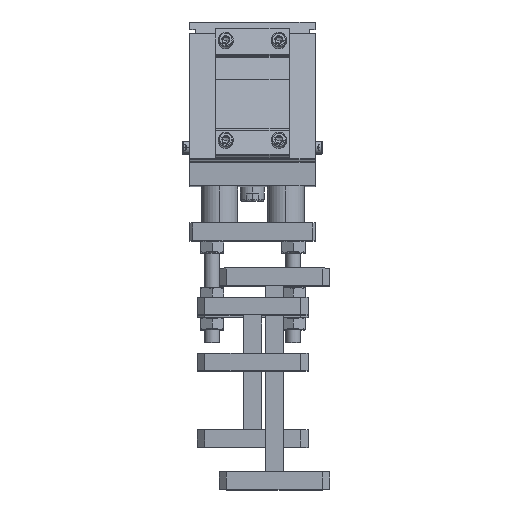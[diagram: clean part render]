
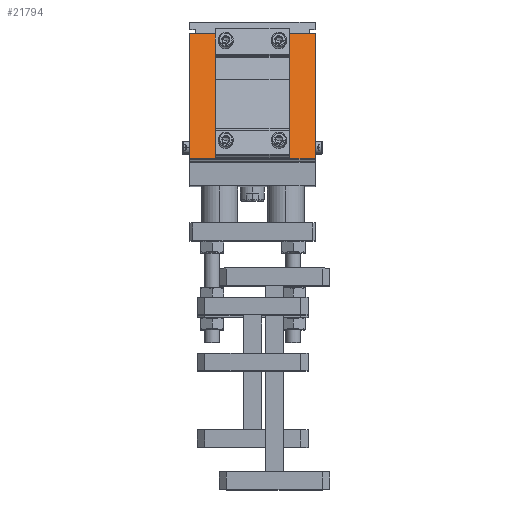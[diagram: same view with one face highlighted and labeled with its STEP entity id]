
A CAD part, top view. The second image highlights one B-rep face of the part: STEP entity #21794.
In plain terms, the highlighted planar face has unit normal (0, 0.244, 0.97).
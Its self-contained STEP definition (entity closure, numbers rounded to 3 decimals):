
#15 = VECTOR ( 'NONE', #11052, 1000. ) ;
#102 = LINE ( 'NONE', #12894, #5116 ) ;
#410 = CARTESIAN_POINT ( 'NONE',  ( 71.137, 165.21, 475.752 ) ) ;
#917 = CARTESIAN_POINT ( 'NONE',  ( 53.637, 165.736, 475.62 ) ) ;
#918 = CARTESIAN_POINT ( 'NONE',  ( 3.637, 165.21, 475.752 ) ) ;
#1433 = VECTOR ( 'NONE', #9855, 1000. ) ;
#2086 = PLANE ( 'NONE',  #15679 ) ;
#2165 = EDGE_CURVE ( 'NONE', #12324, #15682, #2556, .T. ) ;
#2556 = LINE ( 'NONE', #410, #18318 ) ;
#2584 = VECTOR ( 'NONE', #7130, 1000. ) ;
#2753 = VERTEX_POINT ( 'NONE', #28392 ) ;
#2785 = EDGE_LOOP ( 'NONE', ( #4768, #18932, #10596, #16366 ) ) ;
#3069 = EDGE_CURVE ( 'NONE', #19604, #8289, #10207, .T. ) ;
#3143 = EDGE_CURVE ( 'NONE', #15309, #19604, #8309, .T. ) ;
#3329 = EDGE_CURVE ( 'NONE', #15682, #15290, #22570, .T. ) ;
#3807 = EDGE_CURVE ( 'NONE', #18397, #10415, #23106, .T. ) ;
#3882 = ORIENTED_EDGE ( 'NONE', *, *, #14104, .T. ) ;
#4142 = VECTOR ( 'NONE', #14230, 1000. ) ;
#4285 = CARTESIAN_POINT ( 'NONE',  ( 331.147, 165.736, 475.62 ) ) ;
#4397 = DIRECTION ( 'NONE',  ( 0., -0.97, 0.244 ) ) ;
#4768 = ORIENTED_EDGE ( 'NONE', *, *, #3143, .T. ) ;
#5116 = VECTOR ( 'NONE', #4397, 1000. ) ;
#5192 = VERTEX_POINT ( 'NONE', #7383 ) ;
#5451 = CARTESIAN_POINT ( 'NONE',  ( 3.637, 165.21, 475.752 ) ) ;
#5759 = DIRECTION ( 'NONE',  ( 0., -0.97, 0.244 ) ) ;
#5808 = CARTESIAN_POINT ( 'NONE',  ( 53.637, 233.632, 458.552 ) ) ;
#5843 = EDGE_CURVE ( 'NONE', #12324, #25082, #26510, .T. ) ;
#7130 = DIRECTION ( 'NONE',  ( 0., 0.97, -0.244 ) ) ;
#7205 = ORIENTED_EDGE ( 'NONE', *, *, #9595, .F. ) ;
#7267 = VECTOR ( 'NONE', #26683, 1000. ) ;
#7383 = CARTESIAN_POINT ( 'NONE',  ( 53.637, 218.471, 462.363 ) ) ;
#7518 = EDGE_LOOP ( 'NONE', ( #24419, #24715, #3882, #15535, #8449, #7205, #7843, #22394 ) ) ;
#7843 = ORIENTED_EDGE ( 'NONE', *, *, #5843, .F. ) ;
#8289 = VERTEX_POINT ( 'NONE', #16855 ) ;
#8309 = LINE ( 'NONE', #4285, #13799 ) ;
#8317 = EDGE_CURVE ( 'NONE', #2753, #18397, #21052, .T. ) ;
#8449 = ORIENTED_EDGE ( 'NONE', *, *, #3807, .T. ) ;
#9595 = EDGE_CURVE ( 'NONE', #25082, #10415, #18089, .T. ) ;
#9855 = DIRECTION ( 'NONE',  ( -1., 0., 0. ) ) ;
#10207 = LINE ( 'NONE', #5451, #4142 ) ;
#10415 = VERTEX_POINT ( 'NONE', #23305 ) ;
#10596 = ORIENTED_EDGE ( 'NONE', *, *, #23648, .F. ) ;
#10820 = CARTESIAN_POINT ( 'NONE',  ( -13.863, 165.21, 475.752 ) ) ;
#10946 = CARTESIAN_POINT ( 'NONE',  ( 331.147, 165.21, 475.752 ) ) ;
#11052 = DIRECTION ( 'NONE',  ( -1., 0., 0. ) ) ;
#11660 = EDGE_CURVE ( 'NONE', #15290, #21692, #18448, .T. ) ;
#12324 = VERTEX_POINT ( 'NONE', #22960 ) ;
#12859 = CARTESIAN_POINT ( 'NONE',  ( 331.147, 165.21, 475.752 ) ) ;
#12894 = CARTESIAN_POINT ( 'NONE',  ( 53.637, 165.21, 475.752 ) ) ;
#13513 = CARTESIAN_POINT ( 'NONE',  ( 3.637, 249.722, 454.507 ) ) ;
#13799 = VECTOR ( 'NONE', #16956, 1000. ) ;
#14001 = VECTOR ( 'NONE', #22933, 1000. ) ;
#14104 = EDGE_CURVE ( 'NONE', #21692, #2753, #28419, .T. ) ;
#14230 = DIRECTION ( 'NONE',  ( 0., 0.97, -0.244 ) ) ;
#15129 = DIRECTION ( 'NONE',  ( -1., 0., 0. ) ) ;
#15272 = CARTESIAN_POINT ( 'NONE',  ( 331.147, 218.471, 462.363 ) ) ;
#15290 = VERTEX_POINT ( 'NONE', #24958 ) ;
#15304 = VECTOR ( 'NONE', #24338, 1000. ) ;
#15309 = VERTEX_POINT ( 'NONE', #917 ) ;
#15535 = ORIENTED_EDGE ( 'NONE', *, *, #8317, .T. ) ;
#15679 = AXIS2_PLACEMENT_3D ( 'NONE', #12859, #26415, #28433 ) ;
#15682 = VERTEX_POINT ( 'NONE', #27098 ) ;
#16366 = ORIENTED_EDGE ( 'NONE', *, *, #21415, .T. ) ;
#16386 = CARTESIAN_POINT ( 'NONE',  ( 3.637, 165.736, 475.62 ) ) ;
#16855 = CARTESIAN_POINT ( 'NONE',  ( 3.637, 218.471, 462.363 ) ) ;
#16956 = DIRECTION ( 'NONE',  ( -1., 0., 0. ) ) ;
#17182 = FACE_BOUND ( 'NONE', #2785, .T. ) ;
#17879 = CARTESIAN_POINT ( 'NONE',  ( 331.147, 233.632, 458.552 ) ) ;
#18089 = LINE ( 'NONE', #26891, #2584 ) ;
#18318 = VECTOR ( 'NONE', #19976, 1000. ) ;
#18397 = VERTEX_POINT ( 'NONE', #13513 ) ;
#18448 = LINE ( 'NONE', #20750, #20641 ) ;
#18932 = ORIENTED_EDGE ( 'NONE', *, *, #3069, .T. ) ;
#19604 = VERTEX_POINT ( 'NONE', #16386 ) ;
#19860 = VECTOR ( 'NONE', #15129, 1000. ) ;
#19900 = LINE ( 'NONE', #15272, #7267 ) ;
#19976 = DIRECTION ( 'NONE',  ( 0., 0.97, -0.244 ) ) ;
#20641 = VECTOR ( 'NONE', #5759, 1000. ) ;
#20750 = CARTESIAN_POINT ( 'NONE',  ( 53.637, 165.21, 475.752 ) ) ;
#20801 = CARTESIAN_POINT ( 'NONE',  ( 331.147, 249.722, 454.507 ) ) ;
#21052 = LINE ( 'NONE', #918, #14001 ) ;
#21415 = EDGE_CURVE ( 'NONE', #5192, #15309, #102, .T. ) ;
#21692 = VERTEX_POINT ( 'NONE', #5808 ) ;
#21794 = ADVANCED_FACE ( 'NONE', ( #17182, #23814 ), #2086, .T. ) ;
#22394 = ORIENTED_EDGE ( 'NONE', *, *, #2165, .T. ) ;
#22570 = LINE ( 'NONE', #24594, #15 ) ;
#22933 = DIRECTION ( 'NONE',  ( 0., 0.97, -0.244 ) ) ;
#22960 = CARTESIAN_POINT ( 'NONE',  ( 71.137, 165.21, 475.752 ) ) ;
#23106 = LINE ( 'NONE', #20801, #1433 ) ;
#23305 = CARTESIAN_POINT ( 'NONE',  ( -13.863, 249.722, 454.507 ) ) ;
#23648 = EDGE_CURVE ( 'NONE', #5192, #8289, #19900, .T. ) ;
#23814 = FACE_OUTER_BOUND ( 'NONE', #7518, .T. ) ;
#24338 = DIRECTION ( 'NONE',  ( -1., 0., 0. ) ) ;
#24419 = ORIENTED_EDGE ( 'NONE', *, *, #3329, .T. ) ;
#24594 = CARTESIAN_POINT ( 'NONE',  ( 331.147, 249.722, 454.507 ) ) ;
#24715 = ORIENTED_EDGE ( 'NONE', *, *, #11660, .T. ) ;
#24958 = CARTESIAN_POINT ( 'NONE',  ( 53.637, 249.722, 454.507 ) ) ;
#25082 = VERTEX_POINT ( 'NONE', #10820 ) ;
#26415 = DIRECTION ( 'NONE',  ( 0., 0.244, 0.97 ) ) ;
#26510 = LINE ( 'NONE', #10946, #15304 ) ;
#26683 = DIRECTION ( 'NONE',  ( -1., 0., 0. ) ) ;
#26891 = CARTESIAN_POINT ( 'NONE',  ( -13.863, 165.21, 475.752 ) ) ;
#27098 = CARTESIAN_POINT ( 'NONE',  ( 71.137, 249.722, 454.507 ) ) ;
#28392 = CARTESIAN_POINT ( 'NONE',  ( 3.637, 233.632, 458.552 ) ) ;
#28419 = LINE ( 'NONE', #17879, #19860 ) ;
#28433 = DIRECTION ( 'NONE',  ( 0., -0.97, 0.244 ) ) ;
